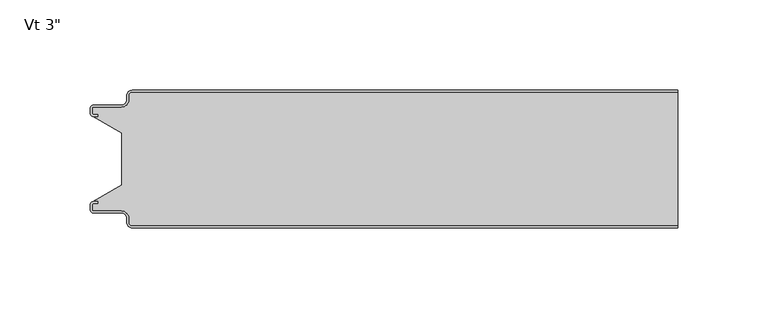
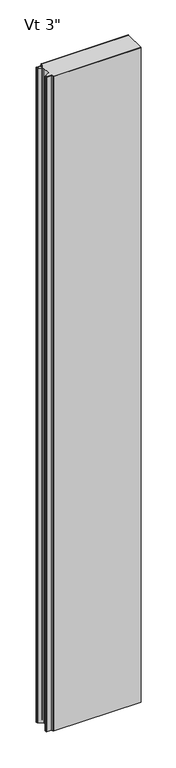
"""IFC4 building model written with IfcOpenShell, lengths in millimetres: plate geometry."""

from ifc_helpers import new_model, si_unit, frame, origin, place, context, project, spatial, polyline, circle_curve, source, transform, mapped, element, save
from ifc_brep_helpers import plane_surface, cylinder_surface, revolved_surface, advanced_brep


def plate_75d355eb(model_context):
    return source(origin(), model_context, "Body", "AdvancedBrep", [
        advanced_brep(
        [(-149.8873936, -2.9776189, 2400.0), (-147.9104835, -1.0007088, 2400.0), (153.7374998, -1.0007088, 2400.0), (153.7374998, 0.0, 2400.0), (-147.9102787, 0.0, 2400.0), (-150.8875472, -2.977286, 2400.0), (-150.8875472, -5.2691698, 2400.0), (-153.8648158, -8.2464384, 2400.0), (-169.4612418, -8.2464384, 2400.0), (-171.0491183, -9.8343149, 2400.0), (-171.0491183, -12.9058636, 2400.0), (-169.4612418, -14.4937401, 2400.0), (-167.1062063, -14.4937401, 2400.0), (-167.1062063, -13.4937365, 2400.0), (-169.4612373, -13.4937365, 2400.0), (-170.0491084, -12.9058654, 2400.0), (-170.0491084, -9.834334, 2400.0), (-169.4612512, -9.2464768, 2400.0), (-153.864739, -9.2464768, 2400.0), (-149.8873936, -5.2691315, 2400.0), (-149.8873936, -2.9776189, 0.0), (-149.8873936, -5.2691315, 0.0), (-153.864739, -9.2464768, 0.0), (-169.4612512, -9.2464768, 0.0), (-170.0491084, -9.834334, 0.0), (-170.0491084, -12.9058654, 0.0), (-169.4612373, -13.4937365, 0.0), (-167.1062063, -13.4937365, 0.0), (-167.1062063, -14.4937401, 0.0), (-169.4612418, -14.4937401, 0.0), (-171.0491183, -12.9058636, 0.0), (-171.0491183, -9.8343149, 0.0), (-169.4612418, -8.2464384, 0.0), (-153.8648158, -8.2464384, 0.0), (-150.8875472, -5.2691698, 0.0), (-150.8875472, -2.977286, 0.0), (-147.9102787, -1.75e-05, 0.0), (153.7374998, 0.0, 0.0), (153.7374998, -1.0007088, 0.0), (-147.9104835, -1.0007088, 0.0)],
        [
            (0, 1, circle_curve(frame((-147.9104835, -2.9776189, 2400.0), z_axis=(0.0, 0.0, -1.0), x_axis=(0.0, 1.0, 0.0)), 1.9769101)),
            (1, 2),
            (2, 3),
            (3, 4),
            (4, 5, circle_curve(frame((-147.9102787, -2.977286, 2400.0), z_axis=(0.0, 0.0, 1.0), x_axis=(0.0, 1.0, 0.0)), 2.9772685)),
            (5, 6),
            (6, 7, circle_curve(frame((-153.8648158, -5.2691698, 2400.0), z_axis=(0.0, 0.0, -1.0), x_axis=(0.0, 1.0, 0.0)), 2.9772685)),
            (7, 8),
            (8, 9, circle_curve(frame((-169.4612418, -9.8343149, 2400.0), z_axis=(0.0, 0.0, 1.0), x_axis=(0.0, 1.0, 0.0)), 1.5878765)),
            (9, 10),
            (10, 11, circle_curve(frame((-169.4612418, -12.9058636, 2400.0), z_axis=(0.0, 0.0, 1.0), x_axis=(0.0, 1.0, 0.0)), 1.5878765)),
            (11, 12),
            (12, 13),
            (13, 14),
            (14, 15, circle_curve(frame((-169.4612373, -12.9058654, 2400.0), z_axis=(0.0, 0.0, -1.0), x_axis=(0.0, 1.0, 0.0)), 0.5878711)),
            (15, 16),
            (16, 17, circle_curve(frame((-169.4612512, -9.834334, 2400.0), z_axis=(0.0, 0.0, -1.0), x_axis=(0.0, 1.0, 0.0)), 0.5878572)),
            (17, 18),
            (18, 19, circle_curve(frame((-153.864739, -5.2691315, 2400.0), z_axis=(0.0, 0.0, 1.0), x_axis=(0.0, 1.0, 0.0)), 3.9773454)),
            (19, 0),
            (20, 21),
            (21, 22, circle_curve(frame((-153.864739, -5.2691315, 0.0), z_axis=(0.0, 0.0, -1.0), x_axis=(0.0, 1.0, 0.0)), 3.9773454)),
            (22, 23),
            (23, 24, circle_curve(frame((-169.4612512, -9.834334, 0.0), z_axis=(0.0, 0.0, 1.0), x_axis=(0.0, 1.0, 0.0)), 0.5878572)),
            (24, 25),
            (25, 26, circle_curve(frame((-169.4612373, -12.9058654, 0.0), z_axis=(0.0, 0.0, 1.0), x_axis=(0.0, 1.0, 0.0)), 0.5878711)),
            (26, 27),
            (27, 28),
            (28, 29),
            (29, 30, circle_curve(frame((-169.4612418, -12.9058636, 0.0), z_axis=(0.0, 0.0, -1.0), x_axis=(0.0, 1.0, 0.0)), 1.5878765)),
            (30, 31),
            (31, 32, circle_curve(frame((-169.4612418, -9.8343149, 0.0), z_axis=(0.0, 0.0, -1.0), x_axis=(0.0, 1.0, 0.0)), 1.5878765)),
            (32, 33),
            (33, 34, circle_curve(frame((-153.8648158, -5.2691698, 0.0), z_axis=(0.0, 0.0, 1.0), x_axis=(0.0, 1.0, 0.0)), 2.9772685)),
            (34, 35),
            (35, 36, circle_curve(frame((-147.9102787, -2.977286, 0.0), z_axis=(0.0, 0.0, -1.0), x_axis=(0.0, 1.0, 0.0)), 2.9772685)),
            (36, 37),
            (37, 38),
            (38, 39),
            (39, 20, circle_curve(frame((-147.9104835, -2.9776189, 0.0), z_axis=(0.0, 0.0, 1.0), x_axis=(0.0, 1.0, 0.0)), 1.9769101)),
            (2, 38),
            (37, 3),
            (19, 21),
            (20, 0),
            (18, 22),
            (17, 23),
            (16, 24),
            (15, 25),
            (14, 26),
            (13, 27),
            (12, 28),
            (11, 29),
            (10, 30),
            (9, 31),
            (8, 32),
            (7, 33),
            (6, 34),
            (5, 35),
            (4, 36),
            (1, 39),
        ],
        [
            plane_surface(frame((422.5250002, 0.0, 2400.0), z_axis=(0.0, 0.0, 1.0), x_axis=(0.0, 1.0, 0.0))),
            plane_surface(frame((422.5250002, 0.0, 0.0), z_axis=(0.0, 0.0, -1.0), x_axis=(0.0, 1.0, 0.0))),
            plane_surface(frame((153.7374998, -86.2, 2400.0), z_axis=(1.0, 0.0, 0.0), x_axis=(0.0, 0.0, -1.0))),
            plane_surface(frame((-149.8873936, -2.9776189, 2400.0), z_axis=(1.0, 0.0, 0.0), x_axis=(0.0, 0.0, -1.0))),
            cylinder_surface(frame((-153.864739, -5.2691315, 2400.0), z_axis=(0.0, 0.0, 1.0), x_axis=(0.0, 1.0, 0.0)), 3.9773454),
            plane_surface(frame((-153.864739, -9.2464768, 2400.0), z_axis=(0.0, -1.0, 0.0), x_axis=(0.0, 0.0, -1.0))),
            revolved_surface(polyline([(-169.4612512, -9.2464768, 0.0), (-169.4612512, -9.2464768, 2400.0)]), (-169.4612512, -9.834334, 2400.0), (0.0, 0.0, -1.0)),
            plane_surface(frame((-170.0491084, -9.834334, 2400.0), z_axis=(1.0, 0.0, 0.0), x_axis=(0.0, 0.0, -1.0))),
            revolved_surface(polyline([(-169.4612373, -12.3179943, 0.0), (-169.4612373, -12.3179943, 2400.0)]), (-169.4612373, -12.9058654, 2400.0), (0.0, 0.0, -1.0)),
            plane_surface(frame((-169.4612373, -13.4937365, 2400.0), z_axis=(0.0, 1.0, 0.0), x_axis=(0.0, 0.0, -1.0))),
            plane_surface(frame((-167.1062063, -13.4937365, 2400.0), z_axis=(1.0, 0.0, 0.0), x_axis=(0.0, 0.0, -1.0))),
            plane_surface(frame((-167.1062063, -14.4937401, 2400.0), z_axis=(0.0, -1.0, 0.0), x_axis=(0.0, 0.0, -1.0))),
            cylinder_surface(frame((-169.4612418, -12.9058636, 2400.0), z_axis=(0.0, 0.0, 1.0), x_axis=(0.0, 1.0, 0.0)), 1.5878765),
            plane_surface(frame((-171.0491183, -12.9058636, 2400.0), z_axis=(-1.0, 0.0, 0.0), x_axis=(0.0, 0.0, -1.0))),
            cylinder_surface(frame((-169.4612418, -9.8343149, 2400.0), z_axis=(0.0, 0.0, 1.0), x_axis=(0.0, 1.0, 0.0)), 1.5878765),
            plane_surface(frame((-169.4612418, -8.2464384, 2400.0), z_axis=(0.0, 1.0, 0.0), x_axis=(0.0, 0.0, -1.0))),
            revolved_surface(polyline([(-153.8648158, -2.2919013, 0.0), (-153.8648158, -2.2919013, 2400.0)]), (-153.8648158, -5.2691698, 2400.0), (0.0, 0.0, -1.0)),
            plane_surface(frame((-150.8875472, -5.2691698, 2400.0), z_axis=(-1.0, 0.0, 0.0), x_axis=(0.0, 0.0, -1.0))),
            cylinder_surface(frame((-147.9102787, -2.977286, 2400.0), z_axis=(0.0, 0.0, 1.0), x_axis=(0.0, 1.0, 0.0)), 2.9772685),
            plane_surface(frame((-147.9102787, 0.0, 2400.0), z_axis=(0.0, 1.0, 0.0), x_axis=(0.0, 0.0, -1.0))),
            plane_surface(frame((997.0753372, -1.0007088, 2400.0), z_axis=(0.0, -1.0, 0.0), x_axis=(0.0, 0.0, -1.0))),
            revolved_surface(polyline([(-147.9104835, -1.0007088, 0.0), (-147.9104835, -1.0007088, 2400.0)]), (-147.9104835, -2.9776189, 2400.0), (0.0, 0.0, -1.0)),
        ],
        [
            (0, [[1, 2, 3, 4, 5, 6, 7, 8, 9, 10, 11, 12, 13, 14, 15, 16, 17, 18, 19, 20]]),
            (1, [[21, 22, 23, 24, 25, 26, 27, 28, 29, 30, 31, 32, 33, 34, 35, 36, 37, 38, 39, 40]]),
            (2, [[41, -38, 42, -3]]),
            (3, [[43, -21, 44, -20]]),
            (4, [[45, -22, -43, -19]]),
            (5, [[46, -23, -45, -18]]),
            (6, [[47, -24, -46, -17]]),
            (7, [[48, -25, -47, -16]]),
            (8, [[49, -26, -48, -15]]),
            (9, [[50, -27, -49, -14]]),
            (10, [[51, -28, -50, -13]]),
            (11, [[52, -29, -51, -12]]),
            (12, [[53, -30, -52, -11]]),
            (13, [[54, -31, -53, -10]]),
            (14, [[55, -32, -54, -9]]),
            (15, [[56, -33, -55, -8]]),
            (16, [[57, -34, -56, -7]]),
            (17, [[58, -35, -57, -6]]),
            (18, [[59, -36, -58, -5]]),
            (19, [[-4, -42, -37, -59]]),
            (20, [[-39, -41, -2, 60]]),
            (21, [[-44, -40, -60, -1]]),
        ],
    ),
        advanced_brep(
        [(-149.8873936, -73.2223811, 2400.0), (-149.8873936, -70.9308685, 2400.0), (-153.864739, -66.9535232, 2400.0), (-169.4612512, -66.9535232, 2400.0), (-170.0491084, -66.365666, 2400.0), (-170.0491084, -63.2941346, 2400.0), (-169.4612373, -62.7062635, 2400.0), (-167.1062063, -62.7062635, 2400.0), (-167.1062063, -61.7062599, 2400.0), (-169.4612418, -61.7062599, 2400.0), (-171.0491183, -63.2941364, 2400.0), (-171.0491183, -66.3656851, 2400.0), (-169.4612418, -67.9535616, 2400.0), (-153.8648158, -67.9535616, 2400.0), (-150.8875472, -70.9308302, 2400.0), (-150.8875472, -73.222714, 2400.0), (-147.9102787, -76.1999825, 2400.0), (153.7374998, -76.2, 2400.0), (153.7374998, -75.1992912, 2400.0), (-147.9104835, -75.1992912, 2400.0), (-149.8873936, -73.2223811, 0.0), (-147.9104835, -75.1992912, 0.0), (153.7374998, -75.1992912, 0.0), (153.7374998, -76.2, 0.0), (-147.9102787, -76.2, 0.0), (-150.8875472, -73.222714, 0.0), (-150.8875472, -70.9308302, 0.0), (-153.8648158, -67.9535616, 0.0), (-169.4612418, -67.9535616, 0.0), (-171.0491183, -66.3656851, 0.0), (-171.0491183, -63.2941364, 0.0), (-169.4612418, -61.7062599, 0.0), (-167.1062063, -61.7062599, 0.0), (-167.1062063, -62.7062635, 0.0), (-169.4612373, -62.7062635, 0.0), (-170.0491084, -63.2941346, 0.0), (-170.0491084, -66.365666, 0.0), (-169.4612512, -66.9535232, 0.0), (-153.864739, -66.9535232, 0.0), (-149.8873936, -70.9308685, 0.0)],
        [
            (0, 1),
            (1, 2, circle_curve(frame((-153.864739, -70.9308685, 2400.0), z_axis=(0.0, 0.0, 1.0), x_axis=(-1.0, 0.0, 0.0)), 3.9773454)),
            (2, 3),
            (3, 4, circle_curve(frame((-169.4612512, -66.365666, 2400.0), z_axis=(0.0, 0.0, -1.0), x_axis=(-1.0, 0.0, 0.0)), 0.5878572)),
            (4, 5),
            (5, 6, circle_curve(frame((-169.4612373, -63.2941346, 2400.0), z_axis=(0.0, 0.0, -1.0), x_axis=(-1.0, 0.0, 0.0)), 0.5878711)),
            (6, 7),
            (7, 8),
            (8, 9),
            (9, 10, circle_curve(frame((-169.4612418, -63.2941364, 2400.0), z_axis=(0.0, 0.0, 1.0), x_axis=(-1.0, 0.0, 0.0)), 1.5878765)),
            (10, 11),
            (11, 12, circle_curve(frame((-169.4612418, -66.3656851, 2400.0), z_axis=(0.0, 0.0, 1.0), x_axis=(-1.0, 0.0, 0.0)), 1.5878765)),
            (12, 13),
            (13, 14, circle_curve(frame((-153.8648158, -70.9308302, 2400.0), z_axis=(0.0, 0.0, -1.0), x_axis=(-1.0, 0.0, 0.0)), 2.9772685)),
            (14, 15),
            (15, 16, circle_curve(frame((-147.9102787, -73.222714, 2400.0), z_axis=(0.0, 0.0, 1.0), x_axis=(-1.0, 0.0, 0.0)), 2.9772685)),
            (16, 17),
            (17, 18),
            (18, 19),
            (19, 0, circle_curve(frame((-147.9104835, -73.2223811, 2400.0), z_axis=(0.0, 0.0, -1.0), x_axis=(-1.0, 0.0, 0.0)), 1.9769101)),
            (20, 21, circle_curve(frame((-147.9104835, -73.2223811, 0.0), z_axis=(0.0, 0.0, 1.0), x_axis=(-1.0, 0.0, 0.0)), 1.9769101)),
            (21, 22),
            (22, 23),
            (23, 24),
            (24, 25, circle_curve(frame((-147.9102787, -73.222714, 0.0), z_axis=(0.0, 0.0, -1.0), x_axis=(-1.0, 0.0, 0.0)), 2.9772685)),
            (25, 26),
            (26, 27, circle_curve(frame((-153.8648158, -70.9308302, 0.0), z_axis=(0.0, 0.0, 1.0), x_axis=(-1.0, 0.0, 0.0)), 2.9772685)),
            (27, 28),
            (28, 29, circle_curve(frame((-169.4612418, -66.3656851, 0.0), z_axis=(0.0, 0.0, -1.0), x_axis=(-1.0, 0.0, 0.0)), 1.5878765)),
            (29, 30),
            (30, 31, circle_curve(frame((-169.4612418, -63.2941364, 0.0), z_axis=(0.0, 0.0, -1.0), x_axis=(-1.0, 0.0, 0.0)), 1.5878765)),
            (31, 32),
            (32, 33),
            (33, 34),
            (34, 35, circle_curve(frame((-169.4612373, -63.2941346, 0.0), z_axis=(0.0, 0.0, 1.0), x_axis=(-1.0, 0.0, 0.0)), 0.5878711)),
            (35, 36),
            (36, 37, circle_curve(frame((-169.4612512, -66.365666, 0.0), z_axis=(0.0, 0.0, 1.0), x_axis=(-1.0, 0.0, 0.0)), 0.5878572)),
            (37, 38),
            (38, 39, circle_curve(frame((-153.864739, -70.9308685, 0.0), z_axis=(0.0, 0.0, -1.0), x_axis=(-1.0, 0.0, 0.0)), 3.9773454)),
            (39, 20),
            (17, 23),
            (22, 18),
            (16, 24),
            (21, 19),
            (20, 0),
            (39, 1),
            (38, 2),
            (37, 3),
            (4, 36),
            (35, 5),
            (34, 6),
            (33, 7),
            (32, 8),
            (31, 9),
            (30, 10),
            (29, 11),
            (28, 12),
            (27, 13),
            (26, 14),
            (25, 15),
        ],
        [
            plane_surface(frame((422.5250002, -76.2, 2400.0), z_axis=(0.0, 0.0, 1.0), x_axis=(0.0, -1.0, 0.0))),
            plane_surface(frame((422.5250002, -76.2, 0.0), z_axis=(0.0, 0.0, -1.0), x_axis=(0.0, -1.0, 0.0))),
            plane_surface(frame((153.7374998, -86.2, 2400.0), z_axis=(1.0, 0.0, 0.0), x_axis=(0.0, 0.0, -1.0))),
            plane_surface(frame((997.0725653, -76.2, 2400.0), z_axis=(0.0, -1.0, 0.0), x_axis=(0.0, 0.0, -1.0))),
            plane_surface(frame((-147.9104835, -75.1992912, 2400.0), z_axis=(0.0, 1.0, 0.0), x_axis=(0.0, 0.0, -1.0))),
            revolved_surface(polyline([(-149.8873936, -73.2223811, 0.0), (-149.8873936, -73.2223811, 2400.0)]), (-147.9104835, -73.2223811, 2400.0), (0.0, 0.0, -1.0)),
            plane_surface(frame((-149.8873936, -70.9308685, 2400.0), z_axis=(1.0, 0.0, 0.0), x_axis=(0.0, 0.0, -1.0))),
            cylinder_surface(frame((-153.864739, -70.9308685, 2400.0), z_axis=(0.0, 0.0, 1.0), x_axis=(-1.0, 0.0, 0.0)), 3.9773454),
            plane_surface(frame((-169.4612512, -66.9535232, 2400.0), z_axis=(0.0, 1.0, 0.0), x_axis=(0.0, 0.0, -1.0))),
            plane_surface(frame((-170.0491084, -63.2941346, 2400.0), z_axis=(1.0, 0.0, 0.0), x_axis=(0.0, 0.0, -1.0))),
            revolved_surface(polyline([(-170.0491084, -63.2941346, 0.0), (-170.0491084, -63.2941346, 2400.0)]), (-169.4612373, -63.2941346, 2400.0), (0.0, 0.0, -1.0)),
            plane_surface(frame((-167.1062063, -62.7062635, 2400.0), z_axis=(0.0, -1.0, 0.0), x_axis=(0.0, 0.0, -1.0))),
            plane_surface(frame((-167.1062063, -61.7062599, 2400.0), z_axis=(1.0, 0.0, 0.0), x_axis=(0.0, 0.0, -1.0))),
            plane_surface(frame((-169.4612418, -61.7062599, 2400.0), z_axis=(0.0, 1.0, 0.0), x_axis=(0.0, 0.0, -1.0))),
            cylinder_surface(frame((-169.4612418, -63.2941364, 2400.0), z_axis=(0.0, 0.0, 1.0), x_axis=(-1.0, 0.0, 0.0)), 1.5878765),
            plane_surface(frame((-171.0491183, -66.3656851, 2400.0), z_axis=(-1.0, 0.0, 0.0), x_axis=(0.0, 0.0, -1.0))),
            cylinder_surface(frame((-169.4612418, -66.3656851, 2400.0), z_axis=(0.0, 0.0, 1.0), x_axis=(-1.0, 0.0, 0.0)), 1.5878765),
            plane_surface(frame((-153.8648158, -67.9535616, 2400.0), z_axis=(0.0, -1.0, 0.0), x_axis=(0.0, 0.0, -1.0))),
            revolved_surface(polyline([(-156.8420843, -70.9308302, 0.0), (-156.8420843, -70.9308302, 2400.0)]), (-153.8648158, -70.9308302, 2400.0), (0.0, 0.0, -1.0)),
            plane_surface(frame((-150.8875472, -73.222714, 2400.0), z_axis=(-1.0, 0.0, 0.0), x_axis=(0.0, 0.0, -1.0))),
            cylinder_surface(frame((-147.9102787, -73.222714, 2400.0), z_axis=(0.0, 0.0, 1.0), x_axis=(-1.0, 0.0, 0.0)), 2.9772685),
            revolved_surface(polyline([(-170.0491084, -66.365666, 0.0), (-170.0491084, -66.365666, 2400.0)]), (-169.4612512, -66.365666, 2400.0), (0.0, 0.0, -1.0)),
        ],
        [
            (0, [[1, 2, 3, 4, 5, 6, 7, 8, 9, 10, 11, 12, 13, 14, 15, 16, 17, 18, 19, 20]]),
            (1, [[21, 22, 23, 24, 25, 26, 27, 28, 29, 30, 31, 32, 33, 34, 35, 36, 37, 38, 39, 40]]),
            (2, [[41, -23, 42, -18]]),
            (3, [[-24, -41, -17, 43]]),
            (4, [[-19, -42, -22, 44]]),
            (5, [[-44, -21, 45, -20]]),
            (6, [[-45, -40, 46, -1]]),
            (7, [[-46, -39, 47, -2]]),
            (8, [[-47, -38, 48, -3]]),
            (9, [[49, -36, 50, -5]]),
            (10, [[-50, -35, 51, -6]]),
            (11, [[-51, -34, 52, -7]]),
            (12, [[-52, -33, 53, -8]]),
            (13, [[-53, -32, 54, -9]]),
            (14, [[-54, -31, 55, -10]]),
            (15, [[-55, -30, 56, -11]]),
            (16, [[-56, -29, 57, -12]]),
            (17, [[-57, -28, 58, -13]]),
            (18, [[-58, -27, 59, -14]]),
            (19, [[-59, -26, 60, -15]]),
            (20, [[-60, -25, -43, -16]]),
            (21, [[-48, -37, -49, -4]]),
        ],
    ),
        advanced_brep(
        [(-149.88755, -73.2227194, 2400.0), (-147.910276, -75.1999935, 2400.0), (153.7374998, -75.2, 2400.0), (153.7374998, -1.0, 2400.0), (-147.910276, -1.0, 2400.0), (-149.88755, -2.9772806, 2400.0), (-149.88755, -5.2691705, 2400.0), (-153.8648171, -9.2464377, 2400.0), (-169.4612416, -9.2464377, 2400.0), (-170.0491185, -9.8343146, 2400.0), (-170.0491185, -12.9058635, 2400.0), (-169.4612418, -13.4937402, 2400.0), (-167.1062063, -13.4937402, 2400.0), (-167.1062063, -14.4937402, 2400.0), (-169.395785, -14.4937402, 2400.0), (-153.7374998, -23.7509135, 2400.0), (-153.7374998, -52.4490865, 2400.0), (-169.395785, -61.7062598, 2400.0), (-167.1062063, -61.7062598, 2400.0), (-167.1062063, -62.7062598, 2400.0), (-169.4612418, -62.7062598, 2400.0), (-170.0491185, -63.2941365, 2400.0), (-170.0491185, -66.3656854, 2400.0), (-169.4612416, -66.9535623, 2400.0), (-153.8648171, -66.9535623, 2400.0), (-149.88755, -70.9308295, 2400.0), (-149.88755, -73.2227194, 0.0), (-149.88755, -70.9308295, 0.0), (-153.8648171, -66.9535623, 0.0), (-169.4612416, -66.9535623, 0.0), (-170.0491185, -66.3656854, 0.0), (-170.0491185, -63.2941365, 0.0), (-169.4612418, -62.7062598, 0.0), (-167.1062063, -62.7062598, 0.0), (-167.1062063, -61.7062598, 0.0), (-169.395785, -61.7062598, 0.0), (-153.7374998, -52.4490865, 0.0), (-153.7374998, -23.7509179, 0.0), (-169.395785, -14.4937402, 0.0), (-167.1062063, -14.4937402, 0.0), (-167.1062063, -13.4937402, 0.0), (-169.4612418, -13.4937402, 0.0), (-170.0491185, -12.9058635, 0.0), (-170.0491185, -9.8343146, 0.0), (-169.4612416, -9.2464377, 0.0), (-153.8648171, -9.2464377, 0.0), (-149.88755, -5.2691705, 0.0), (-149.88755, -2.9772806, 0.0), (-147.910276, -1.0000065, 0.0), (153.7374998, -1.0, 0.0), (153.7374998, -75.2, 0.0), (-147.910276, -75.2, 0.0)],
        [
            (0, 1, circle_curve(frame((-147.910276, -73.2227194, 2400.0), z_axis=(0.0, 0.0, 1.0), x_axis=(-1.0, 0.0, 0.0)), 1.977274)),
            (1, 2),
            (2, 3),
            (3, 4),
            (4, 5, circle_curve(frame((-147.910276, -2.9772806, 2400.0), z_axis=(0.0, 0.0, 1.0), x_axis=(0.0, 1.0, 0.0)), 1.977274)),
            (5, 6),
            (6, 7, circle_curve(frame((-153.8648171, -5.2691705, 2400.0), z_axis=(0.0, 0.0, -1.0), x_axis=(0.0, 1.0, 0.0)), 3.9772671)),
            (7, 8),
            (8, 9, circle_curve(frame((-169.4612416, -9.8343146, 2400.0), z_axis=(0.0, 0.0, 1.0), x_axis=(0.0, 1.0, 0.0)), 0.5878769)),
            (9, 10),
            (10, 11, circle_curve(frame((-169.4612418, -12.9058635, 2400.0), z_axis=(0.0, 0.0, 1.0), x_axis=(0.0, 1.0, 0.0)), 0.5878766)),
            (11, 12),
            (12, 13),
            (13, 14),
            (14, 15),
            (15, 16),
            (16, 17),
            (17, 18),
            (18, 19),
            (19, 20),
            (20, 21, circle_curve(frame((-169.4612418, -63.2941365, 2400.0), z_axis=(0.0, 0.0, 1.0), x_axis=(-1.0, 0.0, 0.0)), 0.5878766)),
            (21, 22),
            (22, 23, circle_curve(frame((-169.4612416, -66.3656854, 2400.0), z_axis=(0.0, 0.0, 1.0), x_axis=(-1.0, 0.0, 0.0)), 0.5878769)),
            (23, 24),
            (24, 25, circle_curve(frame((-153.8648171, -70.9308295, 2400.0), z_axis=(0.0, 0.0, -1.0), x_axis=(-1.0, 0.0, 0.0)), 3.9772671)),
            (25, 0),
            (26, 27),
            (27, 28, circle_curve(frame((-153.8648171, -70.9308295, 0.0), z_axis=(0.0, 0.0, 1.0), x_axis=(-1.0, 0.0, 0.0)), 3.9772671)),
            (28, 29),
            (29, 30, circle_curve(frame((-169.4612416, -66.3656854, 0.0), z_axis=(0.0, 0.0, -1.0), x_axis=(-1.0, 0.0, 0.0)), 0.5878769)),
            (30, 31),
            (31, 32, circle_curve(frame((-169.4612418, -63.2941365, 0.0), z_axis=(0.0, 0.0, -1.0), x_axis=(-1.0, 0.0, 0.0)), 0.5878766)),
            (32, 33),
            (33, 34),
            (34, 35),
            (35, 36),
            (36, 37),
            (37, 38),
            (38, 39),
            (39, 40),
            (40, 41),
            (41, 42, circle_curve(frame((-169.4612418, -12.9058635, 0.0), z_axis=(0.0, 0.0, -1.0), x_axis=(0.0, 1.0, 0.0)), 0.5878766)),
            (42, 43),
            (43, 44, circle_curve(frame((-169.4612416, -9.8343146, 0.0), z_axis=(0.0, 0.0, -1.0), x_axis=(0.0, 1.0, 0.0)), 0.5878769)),
            (44, 45),
            (45, 46, circle_curve(frame((-153.8648171, -5.2691705, 0.0), z_axis=(0.0, 0.0, 1.0), x_axis=(0.0, 1.0, 0.0)), 3.9772671)),
            (46, 47),
            (47, 48, circle_curve(frame((-147.910276, -2.9772806, 0.0), z_axis=(0.0, 0.0, -1.0), x_axis=(0.0, 1.0, 0.0)), 1.977274)),
            (48, 49),
            (49, 50),
            (50, 51),
            (51, 26, circle_curve(frame((-147.910276, -73.2227194, 0.0), z_axis=(0.0, 0.0, -1.0), x_axis=(-1.0, 0.0, 0.0)), 1.977274)),
            (15, 37),
            (36, 16),
            (2, 50),
            (49, 3),
            (25, 27),
            (26, 0),
            (24, 28),
            (23, 29),
            (22, 30),
            (21, 31),
            (20, 32),
            (19, 33),
            (18, 34),
            (17, 35),
            (1, 51),
            (4, 48),
            (47, 5),
            (14, 38),
            (13, 39),
            (12, 40),
            (11, 41),
            (10, 42),
            (9, 43),
            (8, 44),
            (7, 45),
            (6, 46),
        ],
        [
            plane_surface(frame((422.5250002, -75.2, 2400.0), z_axis=(0.0, 0.0, 1.0), x_axis=(0.0, -1.0, 0.0))),
            plane_surface(frame((422.5250002, -75.2, 0.0), z_axis=(0.0, 0.0, -1.0), x_axis=(0.0, -1.0, 0.0))),
            plane_surface(frame((-153.7374998, -52.4490865, 2400.0), z_axis=(-1.0, 0.0, 0.0), x_axis=(0.0, 0.0, -1.0))),
            plane_surface(frame((153.7374998, -86.2, 2400.0), z_axis=(1.0, 0.0, 0.0), x_axis=(0.0, 0.0, -1.0))),
            plane_surface(frame((-149.88755, -73.2227194, 2400.0), z_axis=(-1.0, 0.0, 0.0), x_axis=(0.0, 0.0, -1.0))),
            revolved_surface(polyline([(-157.84208420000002, -70.9308295, 0.0), (-157.84208420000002, -70.9308295, 2400.0)]), (-153.8648171, -70.9308295, 2400.0), (0.0, 0.0, -1.0)),
            plane_surface(frame((-153.8648171, -66.9535623, 2400.0), z_axis=(0.0, -1.0, 0.0), x_axis=(0.0, 0.0, -1.0))),
            cylinder_surface(frame((-169.4612416, -66.3656854, 2400.0), z_axis=(0.0, 0.0, 1.0), x_axis=(-1.0, 0.0, 0.0)), 0.5878769),
            plane_surface(frame((-170.0491185, -66.3656854, 2400.0), z_axis=(-1.0, 0.0, 0.0), x_axis=(0.0, 0.0, -1.0))),
            cylinder_surface(frame((-169.4612418, -63.2941365, 2400.0), z_axis=(0.0, 0.0, 1.0), x_axis=(-1.0, 0.0, 0.0)), 0.5878766),
            plane_surface(frame((-169.4612418, -62.7062598, 2400.0), z_axis=(0.0, 1.0, 0.0), x_axis=(0.0, 0.0, -1.0))),
            plane_surface(frame((-167.1062063, -62.7062598, 2400.0), z_axis=(-1.0, 0.0, 0.0), x_axis=(0.0, 0.0, -1.0))),
            plane_surface(frame((-167.1062063, -61.7062598, 2400.0), z_axis=(0.0, -1.0, 0.0), x_axis=(0.0, 0.0, -1.0))),
            plane_surface(frame((-169.395785, -61.7062598, 2400.0), z_axis=(-0.5089147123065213, 0.860816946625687, 0.0), x_axis=(0.0, 0.0, -1.0))),
            plane_surface(frame((997.0725653, -75.2, 2400.0), z_axis=(0.0, -1.0, 0.0), x_axis=(0.0, 0.0, -1.0))),
            cylinder_surface(frame((-147.910276, -73.2227194, 2400.0), z_axis=(0.0, 0.0, 1.0), x_axis=(-1.0, 0.0, 0.0)), 1.977274),
            cylinder_surface(frame((-147.910276, -2.9772806, 2400.0), z_axis=(0.0, 0.0, 1.0), x_axis=(0.0, 1.0, 0.0)), 1.977274),
            plane_surface(frame((-147.910276, -1.0, 2400.0), z_axis=(0.0, 1.0, 0.0), x_axis=(0.0, 0.0, -1.0))),
            plane_surface(frame((-153.7374998, -23.7509135, 2400.0), z_axis=(-0.5089147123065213, -0.860816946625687, 0.0), x_axis=(0.0, 0.0, -1.0))),
            plane_surface(frame((-169.395785, -14.4937402, 2400.0), z_axis=(0.0, 1.0, 0.0), x_axis=(0.0, 0.0, -1.0))),
            plane_surface(frame((-167.1062063, -14.4937402, 2400.0), z_axis=(-1.0, 0.0, 0.0), x_axis=(0.0, 0.0, -1.0))),
            plane_surface(frame((-167.1062063, -13.4937402, 2400.0), z_axis=(0.0, -1.0, 0.0), x_axis=(0.0, 0.0, -1.0))),
            cylinder_surface(frame((-169.4612418, -12.9058635, 2400.0), z_axis=(0.0, 0.0, 1.0), x_axis=(0.0, 1.0, 0.0)), 0.5878766),
            plane_surface(frame((-170.0491185, -12.9058635, 2400.0), z_axis=(-1.0, 0.0, 0.0), x_axis=(0.0, 0.0, -1.0))),
            cylinder_surface(frame((-169.4612416, -9.8343146, 2400.0), z_axis=(0.0, 0.0, 1.0), x_axis=(0.0, 1.0, 0.0)), 0.5878769),
            plane_surface(frame((-169.4612416, -9.2464377, 2400.0), z_axis=(0.0, 1.0, 0.0), x_axis=(0.0, 0.0, -1.0))),
            revolved_surface(polyline([(-153.8648171, -1.2919034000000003, 0.0), (-153.8648171, -1.2919034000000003, 2400.0)]), (-153.8648171, -5.2691705, 2400.0), (0.0, 0.0, -1.0)),
            plane_surface(frame((-149.88755, -5.2691705, 2400.0), z_axis=(-1.0, 0.0, 0.0), x_axis=(0.0, 0.0, -1.0))),
        ],
        [
            (0, [[1, 2, 3, 4, 5, 6, 7, 8, 9, 10, 11, 12, 13, 14, 15, 16, 17, 18, 19, 20, 21, 22, 23, 24, 25, 26]]),
            (1, [[27, 28, 29, 30, 31, 32, 33, 34, 35, 36, 37, 38, 39, 40, 41, 42, 43, 44, 45, 46, 47, 48, 49, 50, 51, 52]]),
            (2, [[53, -37, 54, -16]]),
            (3, [[55, -50, 56, -3]]),
            (4, [[57, -27, 58, -26]]),
            (5, [[59, -28, -57, -25]]),
            (6, [[60, -29, -59, -24]]),
            (7, [[61, -30, -60, -23]]),
            (8, [[62, -31, -61, -22]]),
            (9, [[63, -32, -62, -21]]),
            (10, [[64, -33, -63, -20]]),
            (11, [[65, -34, -64, -19]]),
            (12, [[66, -35, -65, -18]]),
            (13, [[-54, -36, -66, -17]]),
            (14, [[-51, -55, -2, 67]]),
            (15, [[-58, -52, -67, -1]]),
            (16, [[68, -48, 69, -5]]),
            (17, [[-4, -56, -49, -68]]),
            (18, [[70, -38, -53, -15]]),
            (19, [[71, -39, -70, -14]]),
            (20, [[72, -40, -71, -13]]),
            (21, [[73, -41, -72, -12]]),
            (22, [[74, -42, -73, -11]]),
            (23, [[75, -43, -74, -10]]),
            (24, [[76, -44, -75, -9]]),
            (25, [[77, -45, -76, -8]]),
            (26, [[78, -46, -77, -7]]),
            (27, [[-69, -47, -78, -6]]),
        ],
    ),
    ])


if __name__ == "__main__":
    model = new_model("IFC4")
    model_context = context("Model", 3, world=origin())
    ifc_project = project(units=[si_unit("LENGTHUNIT", "METRE", prefix="MILLI")], contexts=[model_context])
    site = spatial("IfcSite", under=ifc_project)
    building = spatial("IfcBuilding", under=site)
    placement = place(None, origin())
    plate_shape = plate_75d355eb(model_context)
    element("IfcPlate", 1, ObjectType="KIP-SLI-FLI-R19-CP-Vt-FL_FL : Vt 3\"", at=placement, inside=building, context=model_context, shape_type="MappedRepresentation", body=[
        mapped(plate_shape, transform((0.0, 0.0, 0.0), x_axis=(1.0, 0.0, 0.0), y_axis=(0.0, 1.0, 0.0), z_axis=(0.0, 0.0, 1.0))),
    ])
    save(model, "model.ifc")
